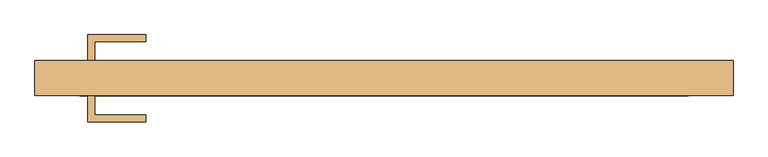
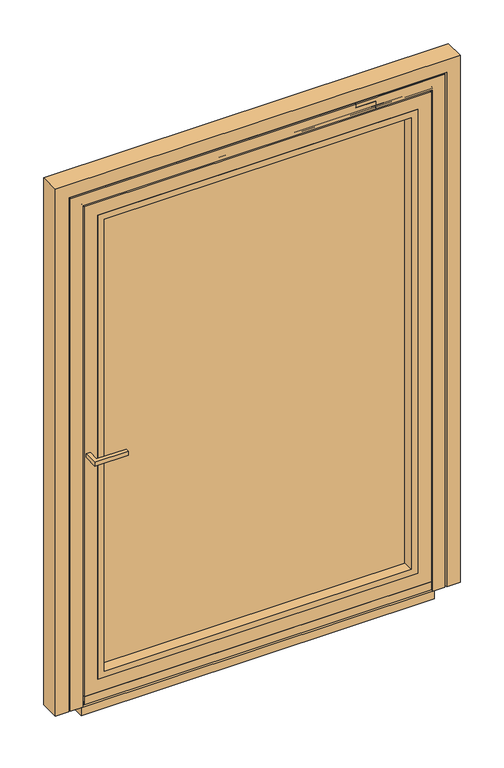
"""IFC4 building model written with IfcOpenShell, lengths in millimetres: door geometry, Reynaers_MasterLine 8_Door_Pivot_Inward Opening_Single Vent_Glass : Reynaers_MasterLine 8_Door_Pivot_Inward Opening_Single Vent_Glass."""

from ifc_helpers import new_model, si_unit, frame, origin, place, context, project, spatial, polyline, circle_curve, ellipse_curve, outline, extrude, faceted_brep, source, transform, mapped, element, save
from ifc_brep_helpers import plane_surface, revolved_surface, advanced_brep


def door_428c05f2(model_context):
    return source(origin(), model_context, "Body", "SolidModel", [
        extrude(outline(polyline([(-653.0, 80.0), (-653.0, 137.5), (-525.5, 137.5), (-525.5, 122.5), (-638.0, 122.5), (-638.0, 80.0), (-653.0, 80.0)])), frame((0.0, 0.0, 1000.0), z_axis=(0.0, 0.0, 1.0), x_axis=(1.0, 0.0, 0.0)), (0.0, 0.0, 1.0), 15.0),
        extrude(outline(polyline([(-653.0, 3.0), (-638.0, 3.0), (-638.0, -39.5), (-525.5, -39.5), (-525.5, -54.5), (-653.0, -54.5), (-653.0, 3.0)])), frame((0.0, 0.0, 1000.0), z_axis=(0.0, 0.0, 1.0), x_axis=(1.0, 0.0, 0.0)), (0.0, 0.0, 1.0), 15.0),
        advanced_brep(
        [(-694.4999999, 71.1998182, 0.0), (-673.6999999, 71.1998182, 0.0), (-673.6999999, 74.9998182, 0.0), (-671.4999998, 74.9998182, 0.0), (-671.4999998, 12.9155527, 0.0), (-668.6670221, 11.8001867, 0.0), (-666.5000018, 11.8001867, 0.0), (-666.5000018, 3.0, 0.0), (-712.5005018, 3.0, 0.0), (-712.5005018, 6.8000019, 0.0), (-702.5005018, 6.8000019, 0.0), (-702.5005018, 4.7990019, 0.0), (-697.5000018, 4.7990019, 0.0), (-697.5000018, 13.5000019, 0.0), (-694.4999999, 13.5000019, 0.0), (450.0, 71.1998182, 2044.4999999), (450.0, 13.5000019, 2044.4999999), (450.0, 13.5000019, 2047.5000018), (450.0, 3.0, 2047.5000018), (450.0, 3.0, 2016.5000018), (450.0, 11.8001867, 2016.5000018), (450.0, 11.8001867, 2018.6670221), (450.0, 12.9155527, 2021.4999998), (450.0, 74.9998182, 2021.4999998), (450.0, 74.9998182, 2023.6999999), (450.0, 71.1998182, 2023.6999999), (-673.6999999, 74.9998182, 2023.6999999), (-673.6999999, 71.1998182, 2023.6999999), (-671.4999998, 12.9155527, 2021.4999998), (-671.4999998, 74.9998182, 2021.4999998), (-668.6670221, 11.8001867, 2018.6670221), (-666.5000018, 3.0, 2016.5000018), (-666.5000018, 11.8001867, 2016.5000018), (-712.5005018, 6.8000019, 2062.5005018), (-712.5005018, 3.0, 2062.5005018), (373.0, 3.0, 2062.5005018), (373.0, 6.8000019, 2062.5005018), (-702.5005018, 4.7990019, 2052.5005018), (-702.5005018, 6.8000019, 2052.5005018), (373.0, 6.8000019, 2052.5005018), (373.0, 4.7990019, 2052.5005018), (-697.5000018, 13.5000019, 2047.5000018), (-697.5000018, 4.7990019, 2047.5000018), (373.0, 4.7990019, 2047.5000018), (373.0, 3.0, 2047.5000018), (-694.4999999, 71.1998182, 2044.4999999), (-694.4999999, 13.5000019, 2044.4999999)],
        [
            (0, 1),
            (1, 2),
            (2, 3),
            (3, 4),
            (4, 5, circle_curve(frame((-670.500002, 11.3000019, 0.0), z_axis=(0.0, 0.0, 1.0), x_axis=(1.0, 0.0, 0.0)), 1.9)),
            (5, 6),
            (6, 7),
            (7, 8),
            (8, 9),
            (9, 10),
            (10, 11),
            (11, 12),
            (12, 13),
            (13, 14),
            (14, 0),
            (15, 16),
            (16, 17),
            (17, 18),
            (18, 19),
            (19, 20),
            (20, 21),
            (21, 22, circle_curve(frame((450.0, 11.3000019, 2020.500002), z_axis=(-1.0, 0.0, 0.0), x_axis=(0.0, 0.0, -1.0)), 1.9)),
            (22, 23),
            (23, 24),
            (24, 25),
            (25, 15),
            (24, 26),
            (26, 27),
            (27, 25),
            (22, 28),
            (28, 29),
            (29, 23),
            (21, 30),
            (30, 28, ellipse_curve(frame((-670.500002, 11.3000019, 2020.500002), z_axis=(-0.7071067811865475, 0.0, -0.7071067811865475), x_axis=(0.7071067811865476, 0.0, -0.7071067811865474)), 2.6870058, 1.9)),
            (19, 31),
            (31, 32),
            (32, 20),
            (33, 34),
            (34, 35),
            (35, 36),
            (36, 33),
            (37, 38),
            (38, 39),
            (39, 40),
            (40, 37),
            (17, 41),
            (41, 42),
            (42, 43),
            (43, 44),
            (44, 18),
            (15, 45),
            (45, 46),
            (46, 16),
            (0, 45),
            (27, 1),
            (26, 2),
            (29, 3),
            (28, 4),
            (30, 5),
            (32, 6),
            (31, 7),
            (44, 35),
            (34, 8),
            (33, 9),
            (36, 39),
            (38, 10),
            (37, 11),
            (40, 43),
            (42, 12),
            (41, 13),
            (46, 14),
        ],
        [
            plane_surface(frame((-686.5, 3.0, 0.0), z_axis=(0.0, 0.0, -1.0), x_axis=(0.0, 1.0, 0.0))),
            plane_surface(frame((450.0, 3.0, 2036.5), z_axis=(1.0, 0.0, 0.0), x_axis=(0.0, 1.0, 0.0))),
            plane_surface(frame((-673.6999999, 71.1998182, 2023.6999999), z_axis=(0.0, 0.0, 1.0), x_axis=(1.0, 0.0, 0.0))),
            plane_surface(frame((-671.4999998, 74.9998182, 2021.4999998), z_axis=(0.0, 0.0, -1.0), x_axis=(1.0, 0.0, 0.0))),
            revolved_surface(polyline([(450.0, 11.3000019, 2018.600002), (-672.4000020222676, 11.3000019, 2018.600002)]), (-686.5, 11.3000019, 2020.500002), (1.0, 0.0, 0.0)),
            plane_surface(frame((-666.5000018, 11.8001867, 2016.5000018), z_axis=(0.0, 0.0, -1.0), x_axis=(1.0, 0.0, 0.0))),
            plane_surface(frame((-712.5005018, 3.0, 2062.5005018), z_axis=(0.0, 0.0, 1.0), x_axis=(1.0, 0.0, 0.0))),
            plane_surface(frame((-702.5005018, 6.8000019, 2052.5005018), z_axis=(0.0, 0.0, -1.0), x_axis=(1.0, 0.0, 0.0))),
            plane_surface(frame((-697.5000018, 4.7990019, 2047.5000018), z_axis=(0.0, 0.0, 1.0), x_axis=(1.0, 0.0, 0.0))),
            plane_surface(frame((-694.4999999, 13.5000019, 2044.4999999), z_axis=(0.0, 0.0, 1.0), x_axis=(1.0, 0.0, 0.0))),
            plane_surface(frame((-694.4999999, 71.1998182, 0.0), z_axis=(0.0, 1.0, 0.0), x_axis=(0.0, 0.0, 1.0))),
            plane_surface(frame((-673.6999999, 71.1998182, 0.0), z_axis=(-1.0, 0.0, 0.0), x_axis=(0.0, 0.0, 1.0))),
            plane_surface(frame((-673.6999999, 74.9998182, 0.0), z_axis=(0.0, 1.0, 0.0), x_axis=(0.0, 0.0, 1.0))),
            plane_surface(frame((-671.4999998, 74.9998182, 0.0), z_axis=(1.0, 0.0, 0.0), x_axis=(0.0, 0.0, 1.0))),
            revolved_surface(polyline([(-668.600002, 11.3000019, 2022.4000020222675), (-668.600002, 11.3000019, 0.0)]), (-670.500002, 11.3000019, 0.0), (0.0, 0.0, 1.0)),
            plane_surface(frame((-668.6670221, 11.8001867, 0.0), z_axis=(0.0, 1.0, 0.0), x_axis=(0.0, 0.0, 1.0))),
            plane_surface(frame((-666.5000018, 11.8001867, 0.0), z_axis=(1.0, 0.0, 0.0), x_axis=(0.0, 0.0, 1.0))),
            plane_surface(frame((-666.5000018, 3.0, 0.0), z_axis=(0.0, -1.0, 0.0), x_axis=(0.0, 0.0, 1.0))),
            plane_surface(frame((-712.5005018, 3.0, 0.0), z_axis=(-1.0, 0.0, 0.0), x_axis=(0.0, 0.0, 1.0))),
            plane_surface(frame((-712.5005018, 6.8000019, 0.0), z_axis=(0.0, 1.0, 0.0), x_axis=(0.0, 0.0, 1.0))),
            plane_surface(frame((-702.5005018, 6.8000019, 0.0), z_axis=(1.0, 0.0, 0.0), x_axis=(0.0, 0.0, 1.0))),
            plane_surface(frame((-702.5005018, 4.7990019, 0.0), z_axis=(0.0, 1.0, 0.0), x_axis=(0.0, 0.0, 1.0))),
            plane_surface(frame((-697.5000018, 4.7990019, 0.0), z_axis=(-1.0, 0.0, 0.0), x_axis=(0.0, 0.0, 1.0))),
            plane_surface(frame((-697.5000018, 13.5000019, 0.0), z_axis=(0.0, 1.0, 0.0), x_axis=(0.0, 0.0, 1.0))),
            plane_surface(frame((-694.4999999, 13.5000019, 0.0), z_axis=(-1.0, 0.0, 0.0), x_axis=(0.0, 0.0, 1.0))),
            plane_surface(frame((373.0, 3.0, 2036.5), z_axis=(1.0, 0.0, 0.0), x_axis=(0.0, 1.0, 0.0))),
        ],
        [
            (0, [[1, 2, 3, 4, 5, 6, 7, 8, 9, 10, 11, 12, 13, 14, 15]]),
            (1, [[16, 17, 18, 19, 20, 21, 22, 23, 24, 25, 26]]),
            (2, [[-25, 27, 28, 29]]),
            (3, [[-23, 30, 31, 32]]),
            (4, [[-22, 33, 34, -30]]),
            (5, [[-20, 35, 36, 37]]),
            (6, [[38, 39, 40, 41]]),
            (7, [[42, 43, 44, 45]]),
            (8, [[46, 47, 48, 49, 50, -18]]),
            (9, [[-16, 51, 52, 53]]),
            (10, [[-1, 54, -51, -26, -29, 55]]),
            (11, [[-2, -55, -28, 56]]),
            (12, [[-3, -56, -27, -24, -32, 57]]),
            (13, [[-4, -57, -31, 58]]),
            (14, [[-5, -58, -34, 59]]),
            (15, [[-6, -59, -33, -21, -37, 60]]),
            (16, [[-7, -60, -36, 61]]),
            (17, [[-8, -61, -35, -19, -50, 62, -39, 63]]),
            (18, [[-9, -63, -38, 64]]),
            (19, [[-10, -64, -41, 65, -43, 66]]),
            (20, [[-11, -66, -42, 67]]),
            (21, [[-12, -67, -45, 68, -48, 69]]),
            (22, [[-13, -69, -47, 70]]),
            (23, [[-14, -70, -46, -17, -53, 71]]),
            (24, [[-15, -71, -52, -54]]),
            (25, [[-49, -68, -44, -65, -40, -62]]),
        ],
    ),
        advanced_brep(
        [(-694.4999999, 71.1998182, 0.0), (-673.6999999, 71.1998182, 0.0), (-673.6999999, 74.9998182, 0.0), (-671.4999998, 74.9998182, 0.0), (-671.4999998, 12.9155527, 0.0), (-668.6670221, 11.8001867, 0.0), (-666.5000018, 11.8001867, 0.0), (-666.5000018, 3.0, 0.0), (-712.5005018, 3.0, 0.0), (-712.5005018, 6.8000019, 0.0), (-702.5005018, 6.8000019, 0.0), (-702.5005018, 4.7990019, 0.0), (-697.5000018, 4.7990019, 0.0), (-697.5000018, 13.5000019, 0.0), (-694.4999999, 13.5000019, 0.0), (450.0, 71.1998182, 2044.4999999), (450.0, 13.5000019, 2044.4999999), (450.0, 13.5000019, 2047.5000018), (450.0, 3.0, 2047.5000018), (450.0, 3.0, 2016.5000018), (450.0, 11.8001867, 2016.5000018), (450.0, 11.8001867, 2018.6670221), (450.0, 12.9155527, 2021.4999998), (450.0, 74.9998182, 2021.4999998), (450.0, 74.9998182, 2023.6999999), (450.0, 71.1998182, 2023.6999999), (-673.6999999, 74.9998182, 2023.6999999), (-673.6999999, 71.1998182, 2023.6999999), (-671.4999998, 12.9155527, 2021.4999998), (-671.4999998, 74.9998182, 2021.4999998), (-668.6670221, 11.8001867, 2018.6670221), (-666.5000018, 3.0, 2016.5000018), (-666.5000018, 11.8001867, 2016.5000018), (-712.5005018, 6.8000019, 2062.5005018), (-712.5005018, 3.0, 2062.5005018), (373.0, 3.0, 2062.5005018), (373.0, 6.8000019, 2062.5005018), (-702.5005018, 4.7990019, 2052.5005018), (-702.5005018, 6.8000019, 2052.5005018), (373.0, 6.8000019, 2052.5005018), (373.0, 4.7990019, 2052.5005018), (-697.5000018, 13.5000019, 2047.5000018), (-697.5000018, 4.7990019, 2047.5000018), (373.0, 4.7990019, 2047.5000018), (373.0, 3.0, 2047.5000018), (-694.4999999, 71.1998182, 2044.4999999), (-694.4999999, 13.5000019, 2044.4999999)],
        [
            (0, 1),
            (1, 2),
            (2, 3),
            (3, 4),
            (4, 5, circle_curve(frame((-670.500002, 11.3000019, 0.0), z_axis=(0.0, 0.0, 1.0), x_axis=(1.0, 0.0, 0.0)), 1.9)),
            (5, 6),
            (6, 7),
            (7, 8),
            (8, 9),
            (9, 10),
            (10, 11),
            (11, 12),
            (12, 13),
            (13, 14),
            (14, 0),
            (15, 16),
            (16, 17),
            (17, 18),
            (18, 19),
            (19, 20),
            (20, 21),
            (21, 22, circle_curve(frame((450.0, 11.3000019, 2020.500002), z_axis=(-1.0, 0.0, 0.0), x_axis=(0.0, 0.0, -1.0)), 1.9)),
            (22, 23),
            (23, 24),
            (24, 25),
            (25, 15),
            (24, 26),
            (26, 27),
            (27, 25),
            (22, 28),
            (28, 29),
            (29, 23),
            (21, 30),
            (30, 28, ellipse_curve(frame((-670.500002, 11.3000019, 2020.500002), z_axis=(-0.7071067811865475, 0.0, -0.7071067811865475), x_axis=(0.7071067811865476, 0.0, -0.7071067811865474)), 2.6870058, 1.9)),
            (19, 31),
            (31, 32),
            (32, 20),
            (33, 34),
            (34, 35),
            (35, 36),
            (36, 33),
            (37, 38),
            (38, 39),
            (39, 40),
            (40, 37),
            (17, 41),
            (41, 42),
            (42, 43),
            (43, 44),
            (44, 18),
            (15, 45),
            (45, 46),
            (46, 16),
            (0, 45),
            (27, 1),
            (26, 2),
            (29, 3),
            (28, 4),
            (30, 5),
            (32, 6),
            (31, 7),
            (44, 35),
            (34, 8),
            (33, 9),
            (36, 39),
            (38, 10),
            (37, 11),
            (40, 43),
            (42, 12),
            (41, 13),
            (46, 14),
        ],
        [
            plane_surface(frame((-686.5, 3.0, 0.0), z_axis=(0.0, 0.0, -1.0), x_axis=(0.0, 1.0, 0.0))),
            plane_surface(frame((450.0, 3.0, 2036.5), z_axis=(1.0, 0.0, 0.0), x_axis=(0.0, 1.0, 0.0))),
            plane_surface(frame((-673.6999999, 71.1998182, 2023.6999999), z_axis=(0.0, 0.0, 1.0), x_axis=(1.0, 0.0, 0.0))),
            plane_surface(frame((-671.4999998, 74.9998182, 2021.4999998), z_axis=(0.0, 0.0, -1.0), x_axis=(1.0, 0.0, 0.0))),
            revolved_surface(polyline([(450.0, 11.3000019, 2018.600002), (-672.4000020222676, 11.3000019, 2018.600002)]), (-686.5, 11.3000019, 2020.500002), (1.0, 0.0, 0.0)),
            plane_surface(frame((-666.5000018, 11.8001867, 2016.5000018), z_axis=(0.0, 0.0, -1.0), x_axis=(1.0, 0.0, 0.0))),
            plane_surface(frame((-712.5005018, 3.0, 2062.5005018), z_axis=(0.0, 0.0, 1.0), x_axis=(1.0, 0.0, 0.0))),
            plane_surface(frame((-702.5005018, 6.8000019, 2052.5005018), z_axis=(0.0, 0.0, -1.0), x_axis=(1.0, 0.0, 0.0))),
            plane_surface(frame((-697.5000018, 4.7990019, 2047.5000018), z_axis=(0.0, 0.0, 1.0), x_axis=(1.0, 0.0, 0.0))),
            plane_surface(frame((-694.4999999, 13.5000019, 2044.4999999), z_axis=(0.0, 0.0, 1.0), x_axis=(1.0, 0.0, 0.0))),
            plane_surface(frame((-694.4999999, 71.1998182, 0.0), z_axis=(0.0, 1.0, 0.0), x_axis=(0.0, 0.0, 1.0))),
            plane_surface(frame((-673.6999999, 71.1998182, 0.0), z_axis=(-1.0, 0.0, 0.0), x_axis=(0.0, 0.0, 1.0))),
            plane_surface(frame((-673.6999999, 74.9998182, 0.0), z_axis=(0.0, 1.0, 0.0), x_axis=(0.0, 0.0, 1.0))),
            plane_surface(frame((-671.4999998, 74.9998182, 0.0), z_axis=(1.0, 0.0, 0.0), x_axis=(0.0, 0.0, 1.0))),
            revolved_surface(polyline([(-668.600002, 11.3000019, 2022.4000020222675), (-668.600002, 11.3000019, 0.0)]), (-670.500002, 11.3000019, 0.0), (0.0, 0.0, 1.0)),
            plane_surface(frame((-668.6670221, 11.8001867, 0.0), z_axis=(0.0, 1.0, 0.0), x_axis=(0.0, 0.0, 1.0))),
            plane_surface(frame((-666.5000018, 11.8001867, 0.0), z_axis=(1.0, 0.0, 0.0), x_axis=(0.0, 0.0, 1.0))),
            plane_surface(frame((-666.5000018, 3.0, 0.0), z_axis=(0.0, -1.0, 0.0), x_axis=(0.0, 0.0, 1.0))),
            plane_surface(frame((-712.5005018, 3.0, 0.0), z_axis=(-1.0, 0.0, 0.0), x_axis=(0.0, 0.0, 1.0))),
            plane_surface(frame((-712.5005018, 6.8000019, 0.0), z_axis=(0.0, 1.0, 0.0), x_axis=(0.0, 0.0, 1.0))),
            plane_surface(frame((-702.5005018, 6.8000019, 0.0), z_axis=(1.0, 0.0, 0.0), x_axis=(0.0, 0.0, 1.0))),
            plane_surface(frame((-702.5005018, 4.7990019, 0.0), z_axis=(0.0, 1.0, 0.0), x_axis=(0.0, 0.0, 1.0))),
            plane_surface(frame((-697.5000018, 4.7990019, 0.0), z_axis=(-1.0, 0.0, 0.0), x_axis=(0.0, 0.0, 1.0))),
            plane_surface(frame((-697.5000018, 13.5000019, 0.0), z_axis=(0.0, 1.0, 0.0), x_axis=(0.0, 0.0, 1.0))),
            plane_surface(frame((-694.4999999, 13.5000019, 0.0), z_axis=(-1.0, 0.0, 0.0), x_axis=(0.0, 0.0, 1.0))),
            plane_surface(frame((373.0, 3.0, 2036.5), z_axis=(1.0, 0.0, 0.0), x_axis=(0.0, 1.0, 0.0))),
        ],
        [
            (0, [[1, 2, 3, 4, 5, 6, 7, 8, 9, 10, 11, 12, 13, 14, 15]]),
            (1, [[16, 17, 18, 19, 20, 21, 22, 23, 24, 25, 26]]),
            (2, [[-25, 27, 28, 29]]),
            (3, [[-23, 30, 31, 32]]),
            (4, [[-22, 33, 34, -30]]),
            (5, [[-20, 35, 36, 37]]),
            (6, [[38, 39, 40, 41]]),
            (7, [[42, 43, 44, 45]]),
            (8, [[46, 47, 48, 49, 50, -18]]),
            (9, [[-16, 51, 52, 53]]),
            (10, [[-1, 54, -51, -26, -29, 55]]),
            (11, [[-2, -55, -28, 56]]),
            (12, [[-3, -56, -27, -24, -32, 57]]),
            (13, [[-4, -57, -31, 58]]),
            (14, [[-5, -58, -34, 59]]),
            (15, [[-6, -59, -33, -21, -37, 60]]),
            (16, [[-7, -60, -36, 61]]),
            (17, [[-8, -61, -35, -19, -50, 62, -39, 63]]),
            (18, [[-9, -63, -38, 64]]),
            (19, [[-10, -64, -41, 65, -43, 66]]),
            (20, [[-11, -66, -42, 67]]),
            (21, [[-12, -67, -45, 68, -48, 69]]),
            (22, [[-13, -69, -47, 70]]),
            (23, [[-14, -70, -46, -17, -53, 71]]),
            (24, [[-15, -71, -52, -54]]),
            (25, [[-49, -68, -44, -65, -40, -62]]),
        ],
    ),
        advanced_brep(
        [(373.0, 3.0, 2062.5005018), (373.0, 6.8000019, 2062.5005018), (373.0, 6.8000019, 2052.5005018), (373.0, 4.7990019, 2052.5005018), (373.0, 4.7990019, 2047.5000018), (373.0, 3.0, 2047.5000018), (694.4999999, 71.1998182, 0.0), (694.4999999, 13.5000019, 0.0), (697.5000018, 13.5000019, 0.0), (697.5000018, 4.7990019, 0.0), (702.5005018, 4.7990019, 0.0), (702.5005018, 6.8000019, 0.0), (712.5005018, 6.8000019, 0.0), (712.5005018, 3.0, 0.0), (666.5000018, 3.0, 0.0), (666.5000018, 11.8001867, 0.0), (668.6670221, 11.8001867, 0.0), (671.4999998, 12.9155527, 0.0), (671.4999998, 74.9998182, 0.0), (673.6999999, 74.9998182, 0.0), (673.6999999, 71.1998182, 0.0), (673.6999999, 71.1998182, 2023.6999999), (450.0, 71.1998182, 2023.6999999), (450.0, 71.1998182, 2044.4999999), (694.4999999, 71.1998182, 2044.4999999), (673.6999999, 74.9998182, 2023.6999999), (450.0, 74.9998182, 2023.6999999), (671.4999998, 74.9998182, 2021.4999998), (450.0, 74.9998182, 2021.4999998), (671.4999998, 12.9155527, 2021.4999998), (450.0, 12.9155527, 2021.4999998), (668.6670221, 11.8001867, 2018.6670221), (450.0, 11.8001867, 2018.6670221), (666.5000018, 11.8001867, 2016.5000018), (450.0, 11.8001867, 2016.5000018), (666.5000018, 3.0, 2016.5000018), (450.0, 3.0, 2016.5000018), (712.5005018, 3.0, 2062.5005018), (450.0, 3.0, 2047.5000018), (712.5005018, 6.8000019, 2062.5005018), (702.5005018, 6.8000019, 2052.5005018), (702.5005018, 4.7990019, 2052.5005018), (697.5000018, 4.7990019, 2047.5000018), (450.0, 4.7990019, 2047.5000018), (697.5000018, 13.5000019, 2047.5000018), (450.0, 13.5000019, 2047.5000018), (694.4999999, 13.5000019, 2044.4999999), (450.0, 13.5000019, 2044.4999999)],
        [
            (0, 1),
            (1, 2),
            (2, 3),
            (3, 4),
            (4, 5),
            (5, 0),
            (6, 7),
            (7, 8),
            (8, 9),
            (9, 10),
            (10, 11),
            (11, 12),
            (12, 13),
            (13, 14),
            (14, 15),
            (15, 16),
            (16, 17, circle_curve(frame((670.500002, 11.3000019, 0.0), z_axis=(0.0, 0.0, 1.0), x_axis=(-1.0, 0.0, 0.0)), 1.9)),
            (17, 18),
            (18, 19),
            (19, 20),
            (20, 6),
            (20, 21),
            (21, 22),
            (22, 23),
            (23, 24),
            (24, 6),
            (21, 25),
            (25, 26),
            (26, 22),
            (18, 27),
            (27, 28),
            (28, 26),
            (25, 19),
            (27, 29),
            (29, 30),
            (30, 28),
            (29, 31, ellipse_curve(frame((670.500002, 11.3000019, 2020.500002), z_axis=(0.7071067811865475, 0.0, -0.7071067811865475), x_axis=(0.7071067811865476, 0.0, 0.7071067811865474)), 2.6870058, 1.9)),
            (31, 32),
            (32, 30, circle_curve(frame((450.0, 11.3000019, 2020.500002), z_axis=(-1.0, 0.0, 0.0), x_axis=(0.0, 0.0, -1.0)), 1.9)),
            (15, 33),
            (33, 34),
            (34, 32),
            (31, 16),
            (33, 35),
            (35, 36),
            (36, 34),
            (13, 37),
            (37, 0),
            (5, 38),
            (38, 36),
            (35, 14),
            (37, 39),
            (39, 1),
            (39, 12),
            (11, 40),
            (40, 2),
            (40, 41),
            (41, 3),
            (41, 10),
            (9, 42),
            (42, 43),
            (43, 4),
            (42, 44),
            (44, 45),
            (45, 43),
            (7, 46),
            (46, 47),
            (47, 45),
            (44, 8),
            (46, 24),
            (23, 47),
            (17, 29),
            (38, 43),
        ],
        [
            plane_surface(frame((373.0, 3.0, 2036.5), z_axis=(-1.0, 0.0, 0.0), x_axis=(0.0, 1.0, 0.0))),
            plane_surface(frame((686.5, 3.0, 0.0), z_axis=(0.0, 0.0, -1.0), x_axis=(0.0, 1.0, 0.0))),
            plane_surface(frame((373.0, 71.1998182, 2044.4999999), z_axis=(0.0, 1.0, 0.0), x_axis=(1.0, 0.0, 0.0))),
            plane_surface(frame((373.0, 71.1998182, 2023.6999999), z_axis=(0.0, 0.0, 1.0), x_axis=(1.0, 0.0, 0.0))),
            plane_surface(frame((373.0, 74.9998182, 2023.6999999), z_axis=(0.0, 1.0, 0.0), x_axis=(1.0, 0.0, 0.0))),
            plane_surface(frame((373.0, 74.9998182, 2021.4999998), z_axis=(0.0, 0.0, -1.0), x_axis=(1.0, 0.0, 0.0))),
            revolved_surface(polyline([(672.4000020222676, 11.3000019, 2018.600002), (450.0, 11.3000019, 2018.600002)]), (373.0, 11.3000019, 2020.500002), (1.0, 0.0, 0.0)),
            plane_surface(frame((373.0, 11.8001867, 2018.6670221), z_axis=(0.0, 1.0, 0.0), x_axis=(1.0, 0.0, 0.0))),
            plane_surface(frame((373.0, 11.8001867, 2016.5000018), z_axis=(0.0, 0.0, -1.0), x_axis=(1.0, 0.0, 0.0))),
            plane_surface(frame((373.0, 3.0, 2016.5000018), z_axis=(0.0, -1.0, 0.0), x_axis=(1.0, 0.0, 0.0))),
            plane_surface(frame((373.0, 3.0, 2062.5005018), z_axis=(0.0, 0.0, 1.0), x_axis=(1.0, 0.0, 0.0))),
            plane_surface(frame((373.0, 6.8000019, 2062.5005018), z_axis=(0.0, 1.0, 0.0), x_axis=(1.0, 0.0, 0.0))),
            plane_surface(frame((373.0, 6.8000019, 2052.5005018), z_axis=(0.0, 0.0, -1.0), x_axis=(1.0, 0.0, 0.0))),
            plane_surface(frame((373.0, 4.7990019, 2052.5005018), z_axis=(0.0, 1.0, 0.0), x_axis=(1.0, 0.0, 0.0))),
            plane_surface(frame((373.0, 4.7990019, 2047.5000018), z_axis=(0.0, 0.0, 1.0), x_axis=(1.0, 0.0, 0.0))),
            plane_surface(frame((373.0, 13.5000019, 2047.5000018), z_axis=(0.0, 1.0, 0.0), x_axis=(1.0, 0.0, 0.0))),
            plane_surface(frame((373.0, 13.5000019, 2044.4999999), z_axis=(0.0, 0.0, 1.0), x_axis=(1.0, 0.0, 0.0))),
            plane_surface(frame((673.6999999, 71.1998182, 2023.6999999), z_axis=(1.0, 0.0, 0.0), x_axis=(0.0, 0.0, -1.0))),
            plane_surface(frame((671.4999998, 74.9998182, 2021.4999998), z_axis=(-1.0, 0.0, 0.0), x_axis=(0.0, 0.0, -1.0))),
            revolved_surface(polyline([(668.600002, 11.3000019, 0.0), (668.600002, 11.3000019, 2022.4000020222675)]), (670.500002, 11.3000019, 2036.5), (0.0, 0.0, -1.0)),
            plane_surface(frame((666.5000018, 11.8001867, 2016.5000018), z_axis=(-1.0, 0.0, 0.0), x_axis=(0.0, 0.0, -1.0))),
            plane_surface(frame((712.5005018, 3.0, 2062.5005018), z_axis=(1.0, 0.0, 0.0), x_axis=(0.0, 0.0, -1.0))),
            plane_surface(frame((702.5005018, 6.8000019, 2052.5005018), z_axis=(-1.0, 0.0, 0.0), x_axis=(0.0, 0.0, -1.0))),
            plane_surface(frame((697.5000018, 4.7990019, 2047.5000018), z_axis=(1.0, 0.0, 0.0), x_axis=(0.0, 0.0, -1.0))),
            plane_surface(frame((694.4999999, 13.5000019, 2044.4999999), z_axis=(1.0, 0.0, 0.0), x_axis=(0.0, 0.0, -1.0))),
            plane_surface(frame((450.0, 3.0, 2036.5), z_axis=(-1.0, 0.0, 0.0), x_axis=(0.0, 1.0, 0.0))),
            plane_surface(frame((373.0, 3.0, 2047.5000018), z_axis=(0.0, 0.0, -1.0), x_axis=(1.0, 0.0, 0.0))),
        ],
        [
            (0, [[1, 2, 3, 4, 5, 6]]),
            (1, [[7, 8, 9, 10, 11, 12, 13, 14, 15, 16, 17, 18, 19, 20, 21]]),
            (2, [[-21, 22, 23, 24, 25, 26]]),
            (3, [[27, 28, 29, -23]]),
            (4, [[-19, 30, 31, 32, -28, 33]]),
            (5, [[34, 35, 36, -31]]),
            (6, [[37, 38, 39, -35]]),
            (7, [[-16, 40, 41, 42, -38, 43]]),
            (8, [[44, 45, 46, -41]]),
            (9, [[-14, 47, 48, -6, 49, 50, -45, 51]]),
            (10, [[-1, -48, 52, 53]]),
            (11, [[-2, -53, 54, -12, 55, 56]]),
            (12, [[-3, -56, 57, 58]]),
            (13, [[-4, -58, 59, -10, 60, 61, 62]]),
            (14, [[63, 64, 65, -61]]),
            (15, [[-8, 66, 67, 68, -64, 69]]),
            (16, [[70, -25, 71, -67]]),
            (17, [[-20, -33, -27, -22]]),
            (18, [[-18, 72, -34, -30]]),
            (19, [[-17, -43, -37, -72]]),
            (20, [[-15, -51, -44, -40]]),
            (21, [[-13, -54, -52, -47]]),
            (22, [[-11, -59, -57, -55]]),
            (23, [[-9, -69, -63, -60]]),
            (24, [[-7, -26, -70, -66]]),
            (25, [[73, -65, -68, -71, -24, -29, -32, -36, -39, -42, -46, -50]]),
            (26, [[-73, -49, -5, -62]]),
        ],
    ),
        extrude(outline(polyline([(3.0, 40.0000014), (11.8001867, 40.0000014), (11.8001867, 29.0000002), (40.5000003, 29.0000002), (40.5000003, 20.9999991), (4.5999991, 20.9999991), (4.5999991, 7.0), (3.0, 7.0), (3.0, 40.0000014)])), frame((-660.4999986, 0.0, 0.0), z_axis=(1.0, 0.0, 0.0), x_axis=(0.0, 1.0, 0.0)), (0.0, 0.0, 1.0), 1320.9999971),
        extrude(outline(polyline([(91.5, -609.0), (91.5, 609.0), (1959.0, 609.0), (1959.0, -609.0), (91.5, -609.0)]), holes=[polyline([(116.5000004, 583.9999996), (116.5000004, -583.9999996), (1933.9999996, -583.9999996), (1933.9999996, 583.9999996), (116.5000004, 583.9999996)])]), frame((0.0, 3.0, 0.0), z_axis=(0.0, 1.0, 0.0), x_axis=(0.0, 0.0, 1.0)), (0.0, 0.0, 1.0), 42.0),
        extrude(outline(polyline([(69.0499782, 29.0000002), (69.0499782, 0.0), (80.0, 0.0), (80.0, -33.0), (3.0, -33.0), (3.0, 0.0), (45.0499779, 0.0), (45.0499779, 29.0000002), (69.0499782, 29.0000002)])), frame((-671.4999998, 0.0, 0.0), z_axis=(1.0, 0.0, 0.0), x_axis=(0.0, 1.0, 0.0)), (0.0, 0.0, 1.0), 1342.9999996),
        faceted_brep([(-692.5, 80.0, 0.0), (-692.5, 76.2, 0.0), (-707.5, 76.2, 0.0), (-707.5, 11.8001837, 0.0), (-718.5, 11.8001837, 0.0), (-718.5, 3.0, 0.0), (-770.0, 3.0, 0.0), (-770.0, 80.0, 0.0), (692.5, 80.0, 0.0), (770.0, 80.0, 0.0), (770.0, 3.0, 0.0), (718.5, 3.0, 0.0), (718.5, 11.8001837, 0.0), (707.5, 11.8001837, 0.0), (707.5, 76.2, 0.0), (692.5, 76.2, 0.0), (-692.5, 80.0, 2042.5), (-692.5, 76.2, 2042.5), (692.5, 76.2, 2042.5), (707.5, 76.2, 2057.5), (-707.5, 76.2, 2057.5), (-707.5, 11.8001837, 2057.5), (707.5, 11.8001837, 2057.5), (718.5, 11.8001837, 2068.5), (-718.5, 11.8001837, 2068.5), (-718.5, 3.0, 2068.5), (718.5, 3.0, 2068.5), (770.0, 3.0, 2120.0), (-770.0, 3.0, 2120.0), (-770.0, 80.0, 2120.0), (770.0, 80.0, 2120.0), (692.5, 80.0, 2042.5)], [[[0, 1, 2, 3, 4, 5, 6, 7]], [[8, 9, 10, 11, 12, 13, 14, 15]], [[1, 0, 16, 17]], [[2, 1, 17, 18, 15, 14, 19, 20]], [[3, 2, 20, 21]], [[4, 3, 21, 22, 13, 12, 23, 24]], [[5, 4, 24, 25]], [[6, 5, 25, 26, 11, 10, 27, 28]], [[7, 6, 28, 29]], [[0, 7, 29, 30, 9, 8, 31, 16]], [[17, 16, 31, 18]], [[21, 20, 19, 22]], [[25, 24, 23, 26]], [[29, 28, 27, 30]], [[18, 31, 8, 15]], [[22, 19, 14, 13]], [[26, 23, 12, 11]], [[30, 27, 10, 9]]]),
        faceted_brep([(-671.4999998, 76.2001837, 29.0000002), (-671.4999998, 11.8001867, 29.0000002), (-671.4999998, 11.8001867, 2021.4999998), (-671.4999998, 76.2001837, 2021.4999998), (-686.4999997, 80.0, 14.0000003), (-686.4999997, 76.2001837, 14.0000003), (-686.4999997, 76.2001837, 2036.4999997), (-686.4999997, 80.0, 2036.4999997), (-581.9999997, 76.0, 118.5000003), (-581.9999997, 80.0, 118.5000003), (-581.9999997, 80.0, 1931.9999997), (-581.9999997, 76.0, 1931.9999997), (-609.0000003, 3.0, 91.4999997), (-609.0000003, 76.0, 91.4999997), (-609.0000003, 76.0, 1959.0000003), (-609.0000003, 3.0, 1959.0000003), (-660.4999986, 11.8001867, 40.0000014), (-660.4999986, 3.0, 40.0000014), (-660.4999986, 3.0, 2010.4999986), (-660.4999986, 11.8001867, 2010.4999986), (671.4999998, 11.8001867, 2021.4999998), (671.4999998, 76.2001837, 2021.4999998), (686.4999997, 76.2001837, 2036.4999997), (686.4999997, 80.0, 2036.4999997), (581.9999997, 80.0, 1931.9999997), (581.9999997, 76.0, 1931.9999997), (609.0000003, 76.0, 1959.0000003), (609.0000003, 3.0, 1959.0000003), (660.4999986, 3.0, 2010.4999986), (660.4999986, 11.8001867, 2010.4999986), (671.4999998, 11.8001867, 29.0000002), (671.4999998, 76.2001837, 29.0000002), (686.4999997, 76.2001837, 14.0000003), (686.4999997, 80.0, 14.0000003), (581.9999997, 80.0, 118.5000003), (581.9999997, 76.0, 118.5000003), (609.0000003, 76.0, 91.4999997), (609.0000003, 3.0, 91.4999997), (660.4999986, 3.0, 40.0000014), (660.4999986, 11.8001867, 40.0000014)], [[[0, 1, 2, 3]], [[4, 5, 6, 7]], [[8, 9, 10, 11]], [[12, 13, 14, 15]], [[16, 17, 18, 19]], [[3, 2, 20, 21]], [[7, 6, 22, 23]], [[11, 10, 24, 25]], [[15, 14, 26, 27]], [[19, 18, 28, 29]], [[21, 20, 30, 31]], [[23, 22, 32, 33]], [[25, 24, 34, 35]], [[27, 26, 36, 37]], [[29, 28, 38, 39]], [[31, 30, 1, 0]], [[5, 32, 22, 6], [3, 21, 31, 0]], [[33, 32, 5, 4]], [[7, 23, 33, 4], [9, 34, 24, 10]], [[35, 34, 9, 8]], [[13, 36, 26, 14], [11, 25, 35, 8]], [[37, 36, 13, 12]], [[17, 38, 28, 18], [15, 27, 37, 12]], [[39, 38, 17, 16]], [[1, 30, 20, 2], [19, 29, 39, 16]]]),
        extrude(outline(polyline([(601.0, 45.0), (-601.0, 45.0), (-601.0, 72.0), (601.0, 72.0), (601.0, 45.0)])), frame((0.0, 0.0, 99.5), z_axis=(0.0, 0.0, 1.0), x_axis=(1.0, 0.0, 0.0)), (0.0, 0.0, 1.0), 1851.5),
    ])


if __name__ == "__main__":
    model = new_model("IFC4")
    model_context = context("Model", 3, world=origin())
    ifc_project = project(units=[si_unit("LENGTHUNIT", "METRE", prefix="MILLI")], contexts=[model_context])
    site = spatial("IfcSite", under=ifc_project)
    building = spatial("IfcBuilding", under=site)
    placement = place(None, origin())
    door_shape = door_428c05f2(model_context)
    element("IfcDoor", 1, ObjectType="Reynaers_MasterLine 8_Door_Pivot_Inward Opening_Single Vent_Glass : Reynaers_MasterLine 8_Door_Pivot_Inward Opening_Single Vent_Glass", at=placement, inside=building, context=model_context, shape_type="MappedRepresentation", body=[
        mapped(door_shape, transform((0.0, 0.0, 0.0), x_axis=(1.0, 0.0, 0.0), y_axis=(0.0, 1.0, 0.0), z_axis=(0.0, 0.0, 1.0))),
    ])
    save(model, "model.ifc")
